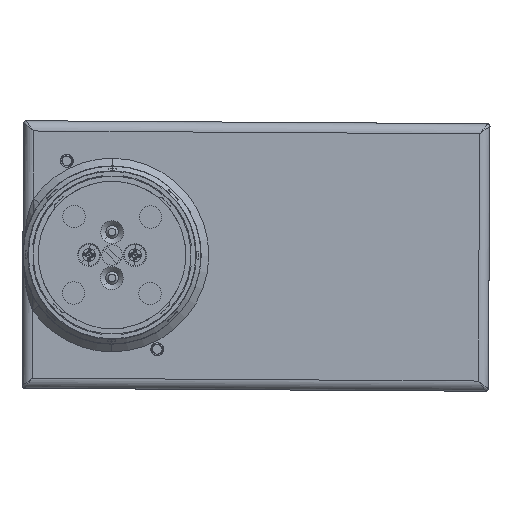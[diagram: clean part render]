
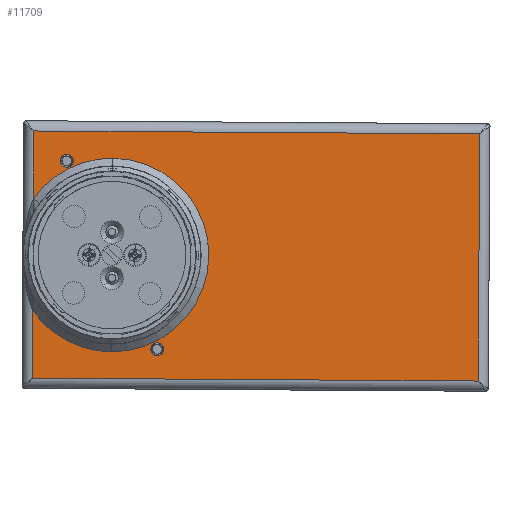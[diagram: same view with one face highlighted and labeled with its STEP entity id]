
A CAD part, front view. The second image highlights one B-rep face of the part: STEP entity #11709.
In plain terms, the highlighted planar face has unit normal (0, -1, 0).
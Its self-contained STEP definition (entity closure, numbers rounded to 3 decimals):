
#256 = CARTESIAN_POINT ( 'NONE',  ( 25.314, -4., 48.337 ) ) ;
#367 = VERTEX_POINT ( 'NONE', #23299 ) ;
#744 = EDGE_CURVE ( 'NONE', #27987, #59533, #10186, .T. ) ;
#947 = VERTEX_POINT ( 'NONE', #68695 ) ;
#1120 = ORIENTED_EDGE ( 'NONE', *, *, #46774, .F. ) ;
#1670 = ORIENTED_EDGE ( 'NONE', *, *, #30378, .F. ) ;
#3663 = CARTESIAN_POINT ( 'NONE',  ( -27.381, -4., 18.419 ) ) ;
#4657 = CARTESIAN_POINT ( 'NONE',  ( 0., -4., 0. ) ) ;
#5126 = CARTESIAN_POINT ( 'NONE',  ( -17.734, -4., 36.966 ) ) ;
#5406 = EDGE_CURVE ( 'NONE', #51452, #947, #5907, .T. ) ;
#5579 = VECTOR ( 'NONE', #72297, 1000. ) ;
#5685 = CARTESIAN_POINT ( 'NONE',  ( 17.734, -4., -36.966 ) ) ;
#5762 = DIRECTION ( 'NONE',  ( 0.006, 0., 1. ) ) ;
#5907 = LINE ( 'NONE', #256, #71482 ) ;
#7591 = EDGE_LOOP ( 'NONE', ( #31650, #18409 ) ) ;
#9916 = DIRECTION ( 'NONE',  ( 0.006, 0., 1. ) ) ;
#10186 = CIRCLE ( 'NONE', #22169, 2.5 ) ;
#11088 = DIRECTION ( 'NONE',  ( 0., -1., 0. ) ) ;
#11646 = EDGE_LOOP ( 'NONE', ( #47342, #51932, #42190, #1120, #1670 ) ) ;
#11709 = ADVANCED_FACE ( 'NONE', ( #46143, #64428, #64506, #78964 ), #26465, .F. ) ;
#12399 = DIRECTION ( 'NONE',  ( 0., 1., 0. ) ) ;
#14130 = VERTEX_POINT ( 'NONE', #18352 ) ;
#14592 = EDGE_CURVE ( 'NONE', #24038, #60051, #72727, .T. ) ;
#14607 = VECTOR ( 'NONE', #66089, 1000. ) ;
#15374 = CARTESIAN_POINT ( 'NONE',  ( 0., -4., 0. ) ) ;
#15675 = CARTESIAN_POINT ( 'NONE',  ( -17.75, -4., 34.466 ) ) ;
#16031 = CARTESIAN_POINT ( 'NONE',  ( -0.214, -4., -32.999 ) ) ;
#16207 = EDGE_CURVE ( 'NONE', #60051, #24038, #30236, .T. ) ;
#16371 = CARTESIAN_POINT ( 'NONE',  ( 17.734, -4., -36.966 ) ) ;
#17031 = CARTESIAN_POINT ( 'NONE',  ( -27.337, -4., 25.178 ) ) ;
#17269 = EDGE_CURVE ( 'NONE', #44079, #34843, #42192, .T. ) ;
#17388 = DIRECTION ( 'NONE',  ( 0.006, 0., 1. ) ) ;
#17517 = DIRECTION ( 'NONE',  ( 0.006, 0., 1. ) ) ;
#17562 = ORIENTED_EDGE ( 'NONE', *, *, #36908, .T. ) ;
#18352 = CARTESIAN_POINT ( 'NONE',  ( -31.314, -4., -48.298 ) ) ;
#18409 = ORIENTED_EDGE ( 'NONE', *, *, #16207, .T. ) ;
#19047 = ORIENTED_EDGE ( 'NONE', *, *, #5406, .T. ) ;
#19219 = VECTOR ( 'NONE', #28934, 1000. ) ;
#21036 = LINE ( 'NONE', #66129, #5579 ) ;
#21413 = CIRCLE ( 'NONE', #45499, 33. ) ;
#22169 = AXIS2_PLACEMENT_3D ( 'NONE', #5126, #61209, #17517 ) ;
#22587 = EDGE_CURVE ( 'NONE', #26799, #51452, #56225, .T. ) ;
#22775 = CARTESIAN_POINT ( 'NONE',  ( -17.734, -4., 36.966 ) ) ;
#23299 = CARTESIAN_POINT ( 'NONE',  ( -27.618, -4., -18.063 ) ) ;
#23422 = VECTOR ( 'NONE', #17388, 1000. ) ;
#24038 = VERTEX_POINT ( 'NONE', #66078 ) ;
#24511 = EDGE_LOOP ( 'NONE', ( #52047, #17562 ) ) ;
#26465 = PLANE ( 'NONE',  #41847 ) ;
#26799 = VERTEX_POINT ( 'NONE', #76056 ) ;
#27987 = VERTEX_POINT ( 'NONE', #35163 ) ;
#28124 = VERTEX_POINT ( 'NONE', #16031 ) ;
#28934 = DIRECTION ( 'NONE',  ( -0.006, 0., -1. ) ) ;
#30236 = CIRCLE ( 'NONE', #68523, 2.5 ) ;
#30378 = EDGE_CURVE ( 'NONE', #28124, #31850, #21413, .T. ) ;
#31466 = CARTESIAN_POINT ( 'NONE',  ( 27.381, -4., -18.419 ) ) ;
#31650 = ORIENTED_EDGE ( 'NONE', *, *, #14592, .T. ) ;
#31850 = VERTEX_POINT ( 'NONE', #31466 ) ;
#32432 = EDGE_CURVE ( 'NONE', #14130, #26799, #51899, .T. ) ;
#33106 = CARTESIAN_POINT ( 'NONE',  ( 17.718, -4., -39.466 ) ) ;
#34289 = CIRCLE ( 'NONE', #55154, 33. ) ;
#34843 = VERTEX_POINT ( 'NONE', #3663 ) ;
#35163 = CARTESIAN_POINT ( 'NONE',  ( -17.718, -4., 39.466 ) ) ;
#36070 = AXIS2_PLACEMENT_3D ( 'NONE', #22775, #72579, #78551 ) ;
#36908 = EDGE_CURVE ( 'NONE', #59533, #27987, #48108, .T. ) ;
#38820 = DIRECTION ( 'NONE',  ( 0.006, 0., 1. ) ) ;
#41847 = AXIS2_PLACEMENT_3D ( 'NONE', #69541, #75747, #38820 ) ;
#42053 = DIRECTION ( 'NONE',  ( 0.006, 0., 1. ) ) ;
#42190 = ORIENTED_EDGE ( 'NONE', *, *, #17269, .F. ) ;
#42192 = CIRCLE ( 'NONE', #60879, 33. ) ;
#43359 = DIRECTION ( 'NONE',  ( -1., 0., 0.006 ) ) ;
#44079 = VERTEX_POINT ( 'NONE', #58802 ) ;
#44116 = ORIENTED_EDGE ( 'NONE', *, *, #32432, .T. ) ;
#44255 = LINE ( 'NONE', #59439, #19219 ) ;
#44328 = ORIENTED_EDGE ( 'NONE', *, *, #45436, .T. ) ;
#45436 = EDGE_CURVE ( 'NONE', #947, #14130, #44255, .T. ) ;
#45499 = AXIS2_PLACEMENT_3D ( 'NONE', #48326, #79632, #5762 ) ;
#46079 = DIRECTION ( 'NONE',  ( 0.006, 0., 1. ) ) ;
#46143 = FACE_OUTER_BOUND ( 'NONE', #48931, .T. ) ;
#46774 = EDGE_CURVE ( 'NONE', #31850, #44079, #21036, .T. ) ;
#47342 = ORIENTED_EDGE ( 'NONE', *, *, #49734, .F. ) ;
#47736 = DIRECTION ( 'NONE',  ( 0.006, 0., 1. ) ) ;
#48108 = CIRCLE ( 'NONE', #36070, 2.5 ) ;
#48326 = CARTESIAN_POINT ( 'NONE',  ( 0., -4., 0. ) ) ;
#48623 = CARTESIAN_POINT ( 'NONE',  ( 144.159, -4., 24.066 ) ) ;
#48931 = EDGE_LOOP ( 'NONE', ( #44328, #44116, #65522, #19047 ) ) ;
#49734 = EDGE_CURVE ( 'NONE', #367, #28124, #34289, .T. ) ;
#51102 = CARTESIAN_POINT ( 'NONE',  ( 24.685, -4., -48.661 ) ) ;
#51452 = VERTEX_POINT ( 'NONE', #68759 ) ;
#51899 = LINE ( 'NONE', #51102, #69230 ) ;
#51932 = ORIENTED_EDGE ( 'NONE', *, *, #63360, .F. ) ;
#52047 = ORIENTED_EDGE ( 'NONE', *, *, #744, .T. ) ;
#55154 = AXIS2_PLACEMENT_3D ( 'NONE', #4657, #11088, #47736 ) ;
#56225 = LINE ( 'NONE', #48623, #23422 ) ;
#58802 = CARTESIAN_POINT ( 'NONE',  ( 27.618, -4., 18.063 ) ) ;
#59439 = CARTESIAN_POINT ( 'NONE',  ( -30.837, -4., 25.201 ) ) ;
#59533 = VERTEX_POINT ( 'NONE', #15675 ) ;
#60051 = VERTEX_POINT ( 'NONE', #33106 ) ;
#60879 = AXIS2_PLACEMENT_3D ( 'NONE', #15374, #70638, #46079 ) ;
#61209 = DIRECTION ( 'NONE',  ( 0., 1., 0. ) ) ;
#63360 = EDGE_CURVE ( 'NONE', #34843, #367, #76335, .T. ) ;
#63825 = AXIS2_PLACEMENT_3D ( 'NONE', #16371, #77317, #9916 ) ;
#64428 = FACE_BOUND ( 'NONE', #7591, .T. ) ;
#64506 = FACE_BOUND ( 'NONE', #24511, .T. ) ;
#65522 = ORIENTED_EDGE ( 'NONE', *, *, #22587, .T. ) ;
#66078 = CARTESIAN_POINT ( 'NONE',  ( 17.75, -4., -34.466 ) ) ;
#66089 = DIRECTION ( 'NONE',  ( -0.006, 0., -1. ) ) ;
#66129 = CARTESIAN_POINT ( 'NONE',  ( 27.662, -4., 24.821 ) ) ;
#68523 = AXIS2_PLACEMENT_3D ( 'NONE', #5685, #12399, #42053 ) ;
#68695 = CARTESIAN_POINT ( 'NONE',  ( -30.685, -4., 48.7 ) ) ;
#68759 = CARTESIAN_POINT ( 'NONE',  ( 144.312, -4., 47.565 ) ) ;
#69230 = VECTOR ( 'NONE', #70243, 1000. ) ;
#69541 = CARTESIAN_POINT ( 'NONE',  ( 25.162, -4., 24.837 ) ) ;
#70243 = DIRECTION ( 'NONE',  ( 1., 0., -0.006 ) ) ;
#70638 = DIRECTION ( 'NONE',  ( 0., -1., 0. ) ) ;
#71482 = VECTOR ( 'NONE', #43359, 1000. ) ;
#72297 = DIRECTION ( 'NONE',  ( 0.006, 0., 1. ) ) ;
#72579 = DIRECTION ( 'NONE',  ( 0., 1., 0. ) ) ;
#72727 = CIRCLE ( 'NONE', #63825, 2.5 ) ;
#75747 = DIRECTION ( 'NONE',  ( 0., 1., 0. ) ) ;
#76056 = CARTESIAN_POINT ( 'NONE',  ( 143.682, -4., -49.433 ) ) ;
#76335 = LINE ( 'NONE', #17031, #14607 ) ;
#77317 = DIRECTION ( 'NONE',  ( 0., 1., 0. ) ) ;
#78551 = DIRECTION ( 'NONE',  ( 0.006, 0., 1. ) ) ;
#78964 = FACE_BOUND ( 'NONE', #11646, .T. ) ;
#79632 = DIRECTION ( 'NONE',  ( 0., -1., 0. ) ) ;
